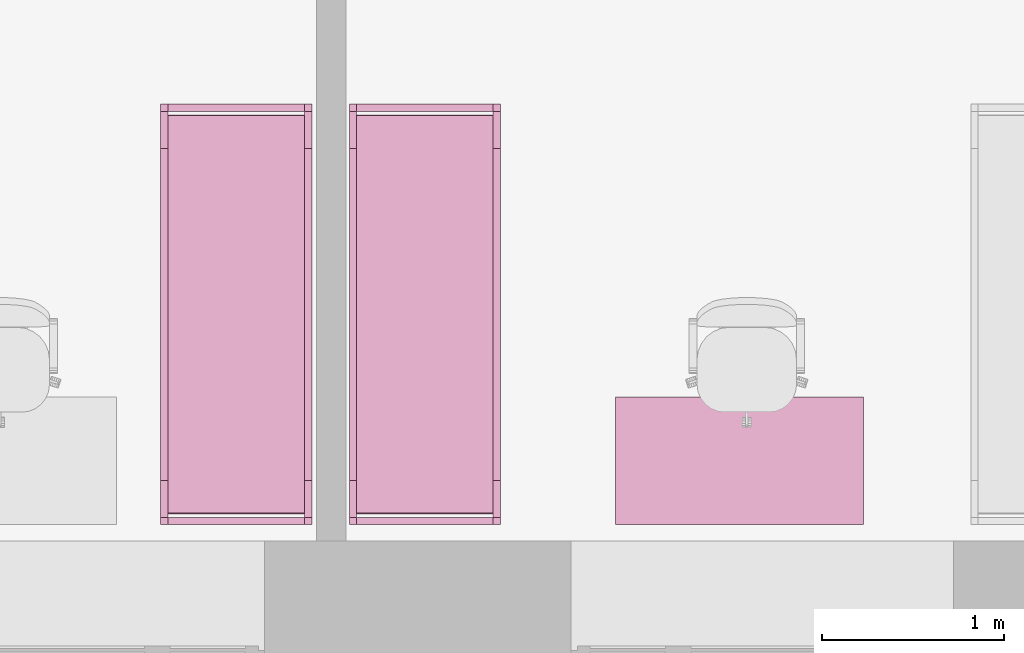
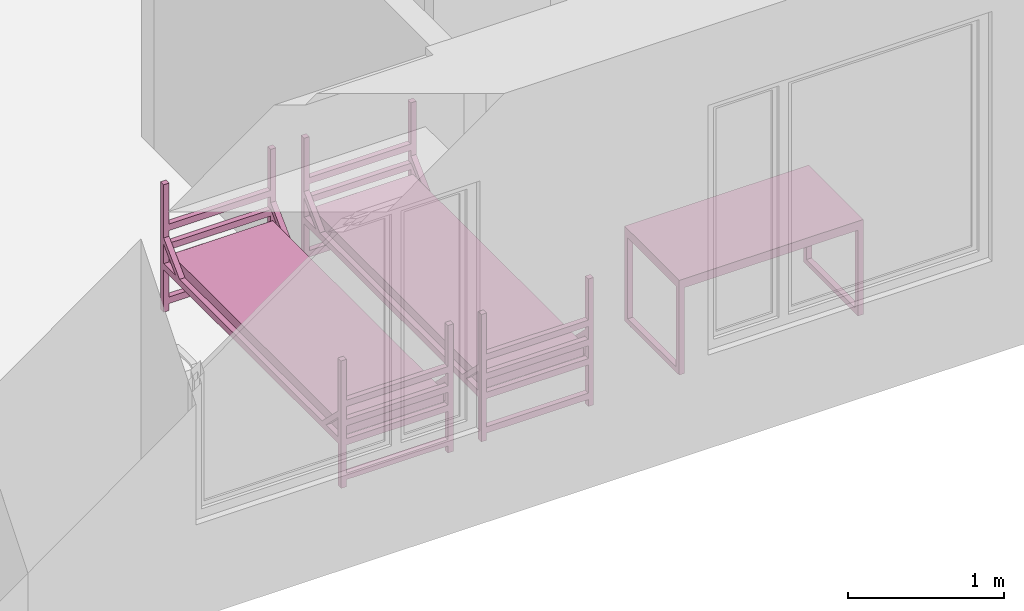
# One storey, part 23 of 48: 3 furnishings.
"""IFC2X3 building model written with IfcOpenShell, lengths in millimetres."""

from ifc_helpers import new_model, entity, si_unit, converted_unit, derived_unit, direction, frame, frame_2d, origin, origin_2d_with_axis, place, context, subcontext, project, spatial, polyline, circle_curve, parameter, trimmed, segment, composite_curve, rectangle, outline, extrude, faceted_brep, source, transform, mapped, material, material_list, type_object, type_shapes, element, save


model = new_model("IFC2X3")

# Units and contexts
model_context = context("Model", 3, precision=0.01, world=origin(), true_north=direction((6.12303176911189e-17, 1.0)))
body_context = subcontext(model_context, "Body", "Model", "MODEL_VIEW")
ifc_project = project(units=[si_unit("LENGTHUNIT", "METRE", prefix="MILLI"), si_unit("AREAUNIT", "SQUARE_METRE"), si_unit("VOLUMEUNIT", "CUBIC_METRE"), converted_unit("PLANEANGLEUNIT", "DEGREE", entity("IfcRatioMeasure", 0.0174532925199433), si_unit("PLANEANGLEUNIT", "RADIAN"), dimensions=[0, 0, 0, 0, 0, 0, 0]), si_unit("MASSUNIT", "GRAM", prefix="KILO"), derived_unit("MASSDENSITYUNIT", [(si_unit("MASSUNIT", "GRAM", prefix="KILO"), 1), (si_unit("LENGTHUNIT", "METRE"), -3)]), si_unit("TIMEUNIT", "SECOND"), si_unit("FREQUENCYUNIT", "HERTZ"), si_unit("THERMODYNAMICTEMPERATUREUNIT", "DEGREE_CELSIUS"), derived_unit("THERMALTRANSMITTANCEUNIT", [(si_unit("MASSUNIT", "GRAM", prefix="KILO"), 1), (si_unit("THERMODYNAMICTEMPERATUREUNIT", "KELVIN"), -1), (si_unit("TIMEUNIT", "SECOND"), -3)]), derived_unit("VOLUMETRICFLOWRATEUNIT", [(si_unit("LENGTHUNIT", "METRE"), 3), (si_unit("TIMEUNIT", "SECOND"), -1)]), si_unit("ELECTRICCURRENTUNIT", "AMPERE"), si_unit("ELECTRICVOLTAGEUNIT", "VOLT"), si_unit("POWERUNIT", "WATT"), si_unit("FORCEUNIT", "NEWTON", prefix="KILO"), si_unit("ILLUMINANCEUNIT", "LUX"), si_unit("LUMINOUSFLUXUNIT", "LUMEN"), si_unit("LUMINOUSINTENSITYUNIT", "CANDELA"), derived_unit("USERDEFINED", [(si_unit("MASSUNIT", "GRAM", prefix="KILO"), -1), (si_unit("LENGTHUNIT", "METRE"), -2), (si_unit("TIMEUNIT", "SECOND"), 3), (si_unit("LUMINOUSFLUXUNIT", "LUMEN"), 1)]), derived_unit("LINEARVELOCITYUNIT", [(si_unit("LENGTHUNIT", "METRE"), 1), (si_unit("TIMEUNIT", "SECOND"), -1)]), si_unit("PRESSUREUNIT", "PASCAL"), derived_unit("USERDEFINED", [(si_unit("LENGTHUNIT", "METRE"), -2), (si_unit("MASSUNIT", "GRAM", prefix="KILO"), 1), (si_unit("TIMEUNIT", "SECOND"), -2)]), derived_unit("LINEARFORCEUNIT", [(si_unit("MASSUNIT", "GRAM", prefix="KILO"), 1), (si_unit("LENGTHUNIT", "METRE"), 1), (si_unit("TIMEUNIT", "SECOND"), -2), (si_unit("LENGTHUNIT", "METRE"), -1)]), derived_unit("PLANARFORCEUNIT", [(si_unit("MASSUNIT", "GRAM", prefix="KILO"), 1), (si_unit("LENGTHUNIT", "METRE"), 1), (si_unit("TIMEUNIT", "SECOND"), -2), (si_unit("LENGTHUNIT", "METRE"), -2)])], contexts=[model_context])

# Site, building, storey, space
site_placement = place(None, origin())
site = spatial("IfcSite", under=ifc_project, at=site_placement, Name="Default", CompositionType="ELEMENT")
building_placement = place(site_placement, origin())
building = spatial("IfcBuilding", under=site, at=building_placement, Name="SMA ARH", CompositionType="ELEMENT")
storey_placement = place(building_placement, frame((0.0, 0.0, 3300.0)))
storey = spatial("IfcBuildingStorey", under=building, at=storey_placement, Name="2 Korrus", CompositionType="ELEMENT", Elevation=3299.99999999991)
space_1_placement = place(storey_placement, origin())
space_1 = spatial("IfcSpace", under=storey, at=space_1_placement, Name="2-15", CompositionType="ELEMENT", InteriorOrExteriorSpace="INTERNAL")

# Furnishing
ifc_material_1 = material(Name="Madrats")
furniture_type_1 = type_object("IfcFurnitureType", Name="Kasarmu voodi ühekordne 2308x830:Kasarmu voodi ühekordne 2308x830", material=ifc_material_1)
shared_shape_1 = source(origin(), body_context, "Body", "SweptSolid", [
    extrude(rectangle(XDim=39.9999999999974, YDim=750.000000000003, at=frame_2d((-1.35003119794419e-13, -2.8421709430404e-14), x_axis=(1.0, 0.0))), frame((1.68638457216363, -1226.7969571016, 55.0), z_axis=(0.0, 0.0, 1.0), x_axis=(0.0, -1.0, 0.0)), (0.0, 0.0, 1.0), 49.9999999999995),
    extrude(rectangle(XDim=39.9999999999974, YDim=750.000000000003, at=frame_2d((-1.35003119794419e-13, -2.8421709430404e-14), x_axis=(1.0, 0.0))), frame((1.68638457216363, -1226.7969571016, 325.0), z_axis=(0.0, 0.0, 1.0), x_axis=(0.0, -1.0, 0.0)), (0.0, 0.0, 1.0), 49.9999999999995),
    extrude(rectangle(XDim=39.9999999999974, YDim=750.000000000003, at=frame_2d((-1.35003119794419e-13, -2.8421709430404e-14), x_axis=(1.0, 0.0))), frame((1.68638457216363, -1226.7969571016, 475.0), z_axis=(0.0, 0.0, 1.0), x_axis=(0.0, -1.0, 0.0)), (0.0, 0.0, 1.0), 49.9999999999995),
    extrude(rectangle(XDim=39.9999999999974, YDim=750.000000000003, at=frame_2d((-1.35003119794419e-13, -2.8421709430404e-14), x_axis=(1.0, 0.0))), frame((1.68638457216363, -1226.7969571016, 625.0), z_axis=(0.0, 0.0, 1.0), x_axis=(0.0, -1.0, 0.0)), (0.0, 0.0, 1.0), 50.0000000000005),
    extrude(rectangle(XDim=39.9999999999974, YDim=750.000000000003, at=frame_2d((1.35003119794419e-13, -2.8421709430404e-14), x_axis=(1.0, 0.0))), frame((1.68638457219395, 1041.2030428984, 55.0), z_axis=(0.0, 0.0, 1.0), x_axis=(0.0, -1.0, 0.0)), (0.0, 0.0, 1.0), 50.0000000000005),
    extrude(rectangle(XDim=39.9999999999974, YDim=750.000000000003, at=frame_2d((1.35003119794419e-13, -2.8421709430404e-14), x_axis=(1.0, 0.0))), frame((1.68638457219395, 1041.2030428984, 325.0), z_axis=(0.0, 0.0, 1.0), x_axis=(0.0, -1.0, 0.0)), (0.0, 0.0, 1.0), 50.0000000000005),
    extrude(rectangle(XDim=39.9999999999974, YDim=750.000000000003, at=frame_2d((1.35003119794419e-13, -2.8421709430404e-14), x_axis=(1.0, 0.0))), frame((1.68638457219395, 1041.2030428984, 475.0), z_axis=(0.0, 0.0, 1.0), x_axis=(0.0, -1.0, 0.0)), (0.0, 0.0, 1.0), 50.0000000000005),
    extrude(rectangle(XDim=39.9999999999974, YDim=750.000000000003, at=frame_2d((1.35003119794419e-13, -2.8421709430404e-14), x_axis=(1.0, 0.0))), frame((1.68638457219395, 1041.2030428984, 625.0), z_axis=(0.0, 0.0, 1.0), x_axis=(0.0, -1.0, 0.0)), (0.0, 0.0, 1.0), 49.9999999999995),
    extrude(outline(composite_curve([segment(trimmed(circle_curve(frame_2d((1085.0, -40.0), x_axis=(1.0, 0.0)), 10.0), [parameter(270.0)], [parameter(0.0)], True, "PARAMETER"), True, "CONTINUOUS"), segment(polyline([(1095.0, -40.0), (1095.0, 40.0)]), True, "CONTINUOUS"), segment(trimmed(circle_curve(frame_2d((1085.0, 40.0), x_axis=(1.0, 0.0)), 10.0), [parameter(0.0)], [parameter(90.0000000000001)], True, "PARAMETER"), True, "CONTINUOUS"), segment(polyline([(1085.0, 50.0), (-1085.0, 50.0)]), True, "CONTINUOUS"), segment(trimmed(circle_curve(frame_2d((-1085.0, 40.0), x_axis=(1.0, 0.0)), 10.0), [parameter(90.0000000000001)], [parameter(180.0)], True, "PARAMETER"), True, "CONTINUOUS"), segment(polyline([(-1095.0, 40.0), (-1095.0, -40.0)]), True, "CONTINUOUS"), segment(trimmed(circle_curve(frame_2d((-1085.0, -40.0), x_axis=(1.0, 0.0)), 10.0), [parameter(180.0)], [parameter(270.0)], True, "PARAMETER"), True, "CONTINUOUS"), segment(polyline([(-1085.0, -50.0), (1085.0, -50.0)]), True, "CONTINUOUS")], self_intersect=False)), frame((-373.313615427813, -92.7969571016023, 405.0), z_axis=(1.0, 0.0, 0.0), x_axis=(0.0, -1.0, 0.0)), (0.0, 0.0, 1.0), 750.000000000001),
    extrude(outline(polyline([(-1114.0, -100.0), (1114.0, -100.0), (1114.0, -50.0), (961.59199141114, -50.0), (1114.0, 100.0), (1114.0, 150.0), (910.789321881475, -50.0), (-910.789321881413, -50.0), (-1114.0, 150.0), (-1114.0, 100.0), (-961.591991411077, -50.0), (-1114.0, -50.0), (-1114.0, -100.0)])), frame((-413.313615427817, -92.7969571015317, 430.0), z_axis=(1.0, 0.0, 0.0), x_axis=(0.0, 1.0, 0.0)), (0.0, 0.0, 1.0), 39.9999999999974),
    extrude(outline(polyline([(-1114.0, -100.0), (1114.0, -100.0), (1114.0, -50.0), (961.591991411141, -50.0), (1114.0, 100.0), (1114.0, 150.0), (910.789321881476, -50.0), (-910.789321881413, -50.0), (-1114.0, 150.0), (-1114.0, 100.0), (-961.591991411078, -50.0), (-1114.0, -50.0), (-1114.0, -100.0)])), frame((376.686384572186, -92.796957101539, 430.0), z_axis=(1.0, 0.0, 0.0), x_axis=(0.0, 1.0, 0.0)), (0.0, 0.0, 1.0), 39.9999999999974),
    extrude(rectangle(XDim=39.9999999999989, YDim=39.9999999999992, at=frame_2d((-6.75015598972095e-14, 0.0), x_axis=(1.0, 0.0))), frame((396.686384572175, -1226.79695710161, 0.0), z_axis=(0.0, 0.0, 1.0), x_axis=(0.0, 1.0, 0.0)), (0.0, 0.0, 1.0), 995.0),
    extrude(rectangle(XDim=39.9999999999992, YDim=39.9999999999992, at=frame_2d((-1.35003119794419e-13, 0.0), x_axis=(1.0, 0.0))), frame((396.686384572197, 1041.20304289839, 0.0), z_axis=(0.0, 0.0, 1.0), x_axis=(0.0, 1.0, 0.0)), (0.0, 0.0, 1.0), 995.0),
    extrude(rectangle(XDim=40.0000000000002, YDim=39.9999999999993, at=frame_2d((-1.35003119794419e-13, 0.0), x_axis=(1.0, 0.0))), frame((-393.313615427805, 1041.2030428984, 0.0), z_axis=(0.0, 0.0, 1.0), x_axis=(0.0, 1.0, 0.0)), (0.0, 0.0, 1.0), 995.0),
    extrude(rectangle(XDim=39.9999999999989, YDim=39.9999999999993, at=frame_2d((-6.75015598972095e-14, 0.0), x_axis=(1.0, 0.0))), frame((-393.313615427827, -1226.7969571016, 0.0), z_axis=(0.0, 0.0, 1.0), x_axis=(0.0, 1.0, 0.0)), (0.0, 0.0, 1.0), 995.0),
])
type_shapes(furniture_type_1, [shared_shape_1])
furnishing_1_placement = place(space_1_placement, frame((3185.0, 1151.20304289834, 0.0), z_axis=(0.0, 0.0, 1.0), x_axis=(-1.0, 0.0, 0.0)))
element("IfcFurnishingElement", 1, at=furnishing_1_placement, inside=space_1, type_object=furniture_type_1, material=ifc_material_1, Name="Kasarmu voodi ühekordne 2308x830:Kasarmu voodi ühekordne 2308x830", ObjectType="Kasarmu voodi ühekordne 2308x830:Kasarmu voodi ühekordne 2308x830", context=body_context, shape_type="MappedRepresentation", body=[
    mapped(shared_shape_1, transform((0.0, 0.0, 0.0), scale=1.0)),
])

# Space
space_2_placement = place(storey_placement, origin())
space_2 = spatial("IfcSpace", under=storey, at=space_2_placement, Name="2-14", CompositionType="ELEMENT", InteriorOrExteriorSpace="INTERNAL")

# Furnishings
ifc_material_2 = material(Name="<Unnamed>")
ifc_material_list = material_list([ifc_material_2, ifc_material_2])
furniture_type_2 = type_object("IfcFurnitureType", Name="kirjutuslaud 1360x700mm:kirjutuslaud 1360x700mm", material=ifc_material_list)
shared_shape_2 = source(origin(), body_context, "Body", "Brep", [
    faceted_brep([(680.0, -350.0, 720.0), (680.0, 350.0, 720.0), (680.0, 350.0, 750.0), (680.0, -350.0, 750.0), (-680.0, -350.0, 720.0), (-680.0, -350.0, 750.0), (-680.0, 350.0, 750.0), (-680.0, 350.0, 720.0)], [[[0, 1, 2, 3]], [[4, 5, 6, 7]], [[1, 0, 4, 7]], [[2, 1, 7, 6]], [[3, 2, 6, 5]], [[0, 3, 5, 4]]]),
    faceted_brep([(-640.0, -310.0, 680.0), (-640.0, 310.0, 680.0), (-640.0, 310.0, 720.0), (-640.0, -310.0, 720.0), (-680.0, -350.0, 720.0), (-680.0, 350.0, 720.0), (-680.0, 350.0, 10.0), (-680.0, -350.0, 10.0), (-680.0, 310.0, 680.0), (-680.0, -310.0, 680.0), (-680.0, -310.0, 50.0), (-680.0, 310.0, 50.0), (-640.0, -350.0, 10.0), (-640.0, -350.0, 680.0), (640.0, -350.0, 680.0), (640.0, -350.0, 10.0), (680.0, -350.0, 10.0), (680.0, -350.0, 720.0), (-640.0, 350.0, 10.0), (680.0, 350.0, 720.0), (680.0, 350.0, 10.0), (640.0, 350.0, 10.0), (640.0, 350.0, 680.0), (-640.0, 350.0, 680.0), (640.0, 310.0, 720.0), (640.0, -310.0, 720.0), (-640.0, 310.0, 50.0), (-640.0, -310.0, 50.0), (640.0, -310.0, 680.0), (640.0, 310.0, 680.0), (680.0, 310.0, 680.0), (680.0, 310.0, 50.0), (680.0, -310.0, 50.0), (680.0, -310.0, 680.0), (640.0, -310.0, 50.0), (640.0, 310.0, 50.0)], [[[0, 1, 2, 3]], [[4, 5, 6, 7], [8, 9, 10, 11]], [[4, 7, 12, 13, 14, 15, 16, 17]], [[18, 12, 7, 6]], [[6, 5, 19, 20, 21, 22, 23, 18]], [[19, 5, 4, 17], [2, 24, 25, 3]], [[26, 1, 8, 11]], [[27, 26, 11, 10]], [[0, 27, 10, 9]], [[1, 0, 9, 8]], [[14, 13, 0, 28]], [[24, 2, 1, 29]], [[3, 25, 28, 0]], [[17, 16, 20, 19], [30, 31, 32, 33]], [[21, 15, 14, 28, 34, 35, 29, 22]], [[20, 16, 15, 21]], [[31, 30, 29, 35]], [[32, 31, 35, 34]], [[33, 32, 34, 28]], [[30, 33, 28, 29]], [[29, 28, 25, 24]], [[29, 1, 23, 22]], [[12, 18, 23, 1, 26, 27, 0, 13]]]),
    faceted_brep([(-663.729456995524, -270.466136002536, 0.0), (-659.847171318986, -269.955023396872, 0.0), (-655.964885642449, -270.466136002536, 0.0), (-652.347171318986, -271.964642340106, 0.0), (-649.240569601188, -274.348421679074, 0.0), (-646.85679026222, -277.455023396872, 0.0), (-645.35828392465, -281.072737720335, 0.0), (-644.847171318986, -284.955023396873, 0.0), (-645.35828392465, -288.83730907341, 0.0), (-646.85679026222, -292.455023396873, 0.0), (-649.240569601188, -295.561625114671, 0.0), (-652.347171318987, -297.945404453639, 0.0), (-655.964885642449, -299.443910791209, 0.0), (-659.847171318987, -299.955023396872, 0.0), (-663.729456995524, -299.443910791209, 0.0), (-667.347171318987, -297.945404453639, 0.0), (-670.453773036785, -295.561625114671, 0.0), (-672.837552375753, -292.455023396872, 0.0), (-674.336058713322, -288.83730907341, 0.0), (-674.847171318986, -284.955023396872, 0.0), (-674.336058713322, -281.072737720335, 0.0), (-672.837552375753, -277.455023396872, 0.0), (-670.453773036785, -274.348421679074, 0.0), (-667.347171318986, -271.964642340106, 0.0), (-655.964885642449, -299.443910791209, 10.0), (-652.347171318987, -297.945404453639, 10.0), (-649.240569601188, -295.561625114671, 10.0), (-646.85679026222, -292.455023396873, 10.0), (-645.35828392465, -288.83730907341, 10.0), (-644.847171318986, -284.955023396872, 10.0), (-645.35828392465, -281.072737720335, 10.0), (-646.85679026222, -277.455023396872, 10.0), (-649.240569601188, -274.348421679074, 10.0), (-652.347171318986, -271.964642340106, 10.0), (-655.964885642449, -270.466136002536, 10.0), (-659.847171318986, -269.955023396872, 10.0), (-663.729456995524, -270.466136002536, 10.0), (-667.347171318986, -271.964642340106, 10.0), (-670.453773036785, -274.348421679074, 10.0), (-672.837552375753, -277.455023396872, 10.0), (-674.336058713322, -281.072737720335, 10.0), (-674.847171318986, -284.955023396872, 10.0), (-674.336058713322, -288.83730907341, 10.0), (-672.837552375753, -292.455023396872, 10.0), (-670.453773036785, -295.561625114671, 10.0), (-667.347171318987, -297.945404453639, 10.0), (-663.729456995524, -299.443910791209, 10.0), (-659.847171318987, -299.955023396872, 10.0)], [[[0, 1, 2, 3, 4, 5, 6, 7, 8, 9, 10, 11, 12, 13, 14, 15, 16, 17, 18, 19, 20, 21, 22, 23]], [[24, 25, 26, 27, 28, 29, 30, 31, 32, 33, 34, 35, 36, 37, 38, 39, 40, 41, 42, 43, 44, 45, 46, 47]], [[18, 42, 41, 19]], [[17, 43, 42, 18]], [[45, 44, 16, 15]], [[17, 16, 44, 43]], [[46, 45, 15, 14]], [[47, 46, 14, 13]], [[12, 24, 47, 13]], [[11, 25, 24, 12]], [[27, 26, 10, 9]], [[11, 10, 26, 25]], [[28, 27, 9, 8]], [[29, 28, 8, 7]], [[6, 30, 29, 7]], [[5, 31, 30, 6]], [[33, 32, 4, 3]], [[5, 4, 32, 31]], [[34, 33, 3, 2]], [[35, 34, 2, 1]], [[0, 36, 35, 1]], [[23, 37, 36, 0]], [[39, 38, 22, 21]], [[23, 22, 38, 37]], [[40, 39, 21, 20]], [[41, 40, 20, 19]]]),
    faceted_brep([(-655.964885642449, 270.466136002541, 10.0), (-652.347171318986, 271.964642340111, 10.0), (-649.240569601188, 274.348421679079, 10.0), (-646.85679026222, 277.455023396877, 10.0), (-645.35828392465, 281.07273772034, 10.0), (-644.847171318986, 284.955023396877, 10.0), (-645.35828392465, 288.837309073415, 10.0), (-646.85679026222, 292.455023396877, 10.0), (-649.240569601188, 295.561625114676, 10.0), (-652.347171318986, 297.945404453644, 10.0), (-655.964885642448, 299.443910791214, 10.0), (-659.847171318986, 299.955023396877, 10.0), (-663.729456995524, 299.443910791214, 10.0), (-667.347171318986, 297.945404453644, 10.0), (-670.453773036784, 295.561625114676, 10.0), (-672.837552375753, 292.455023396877, 10.0), (-674.336058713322, 288.837309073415, 10.0), (-674.847171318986, 284.955023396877, 10.0), (-674.336058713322, 281.07273772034, 10.0), (-672.837552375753, 277.455023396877, 10.0), (-670.453773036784, 274.348421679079, 10.0), (-667.347171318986, 271.964642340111, 10.0), (-663.729456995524, 270.466136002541, 10.0), (-659.847171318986, 269.955023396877, 10.0), (-655.964885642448, 299.443910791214, 0.0), (-652.347171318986, 297.945404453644, 0.0), (-649.240569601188, 295.561625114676, 0.0), (-646.85679026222, 292.455023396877, 0.0), (-645.35828392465, 288.837309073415, 0.0), (-644.847171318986, 284.955023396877, 0.0), (-645.35828392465, 281.07273772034, 0.0), (-646.85679026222, 277.455023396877, 0.0), (-649.240569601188, 274.348421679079, 0.0), (-652.347171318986, 271.964642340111, 0.0), (-655.964885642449, 270.466136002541, 0.0), (-659.847171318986, 269.955023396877, 0.0), (-663.729456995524, 270.466136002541, 0.0), (-667.347171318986, 271.964642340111, 0.0), (-670.453773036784, 274.348421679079, 0.0), (-672.837552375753, 277.455023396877, 0.0), (-674.336058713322, 281.07273772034, 0.0), (-674.847171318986, 284.955023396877, 0.0), (-674.336058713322, 288.837309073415, 0.0), (-672.837552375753, 292.455023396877, 0.0), (-670.453773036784, 295.561625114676, 0.0), (-667.347171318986, 297.945404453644, 0.0), (-663.729456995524, 299.443910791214, 0.0), (-659.847171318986, 299.955023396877, 0.0)], [[[0, 1, 2, 3, 4, 5, 6, 7, 8, 9, 10, 11, 12, 13, 14, 15, 16, 17, 18, 19, 20, 21, 22, 23]], [[24, 25, 26, 27, 28, 29, 30, 31, 32, 33, 34, 35, 36, 37, 38, 39, 40, 41, 42, 43, 44, 45, 46, 47]], [[40, 18, 17, 41]], [[39, 19, 18, 40]], [[21, 20, 38, 37]], [[39, 38, 20, 19]], [[22, 21, 37, 36]], [[23, 22, 36, 35]], [[34, 0, 23, 35]], [[33, 1, 0, 34]], [[3, 2, 32, 31]], [[33, 32, 2, 1]], [[4, 3, 31, 30]], [[5, 4, 30, 29]], [[28, 6, 5, 29]], [[27, 7, 6, 28]], [[9, 8, 26, 25]], [[27, 26, 8, 7]], [[10, 9, 25, 24]], [[11, 10, 24, 47]], [[46, 12, 11, 47]], [[45, 13, 12, 46]], [[15, 14, 44, 43]], [[45, 44, 14, 13]], [[16, 15, 43, 42]], [[17, 16, 42, 41]]]),
    faceted_brep([(656.270543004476, -270.466136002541, 0.0), (660.152828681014, -269.955023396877, 0.0), (664.035114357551, -270.466136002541, 0.0), (667.652828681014, -271.96464234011, 0.0), (670.759430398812, -274.348421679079, 0.0), (673.14320973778, -277.455023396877, 0.0), (674.64171607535, -281.072737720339, 0.0), (675.152828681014, -284.955023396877, 0.0), (674.64171607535, -288.837309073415, 0.0), (673.14320973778, -292.455023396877, 0.0), (670.759430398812, -295.561625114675, 0.0), (667.652828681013, -297.945404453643, 0.0), (664.035114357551, -299.443910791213, 0.0), (660.152828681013, -299.955023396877, 0.0), (656.270543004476, -299.443910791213, 0.0), (652.652828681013, -297.945404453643, 0.0), (649.546226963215, -295.561625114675, 0.0), (647.162447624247, -292.455023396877, 0.0), (645.663941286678, -288.837309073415, 0.0), (645.152828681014, -284.955023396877, 0.0), (645.663941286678, -281.072737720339, 0.0), (647.162447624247, -277.455023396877, 0.0), (649.546226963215, -274.348421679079, 0.0), (652.652828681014, -271.96464234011, 0.0), (664.035114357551, -299.443910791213, 10.0), (667.652828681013, -297.945404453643, 10.0), (670.759430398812, -295.561625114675, 10.0), (673.14320973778, -292.455023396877, 10.0), (674.64171607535, -288.837309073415, 10.0), (675.152828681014, -284.955023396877, 10.0), (674.64171607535, -281.072737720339, 10.0), (673.14320973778, -277.455023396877, 10.0), (670.759430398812, -274.348421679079, 10.0), (667.652828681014, -271.96464234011, 10.0), (664.035114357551, -270.466136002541, 10.0), (660.152828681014, -269.955023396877, 10.0), (656.270543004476, -270.466136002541, 10.0), (652.652828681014, -271.96464234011, 10.0), (649.546226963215, -274.348421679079, 10.0), (647.162447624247, -277.455023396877, 10.0), (645.663941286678, -281.072737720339, 10.0), (645.152828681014, -284.955023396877, 10.0), (645.663941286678, -288.837309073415, 10.0), (647.162447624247, -292.455023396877, 10.0), (649.546226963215, -295.561625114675, 10.0), (652.652828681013, -297.945404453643, 10.0), (656.270543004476, -299.443910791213, 10.0), (660.152828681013, -299.955023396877, 10.0)], [[[0, 1, 2, 3, 4, 5, 6, 7, 8, 9, 10, 11, 12, 13, 14, 15, 16, 17, 18, 19, 20, 21, 22, 23]], [[24, 25, 26, 27, 28, 29, 30, 31, 32, 33, 34, 35, 36, 37, 38, 39, 40, 41, 42, 43, 44, 45, 46, 47]], [[18, 42, 41, 19]], [[17, 43, 42, 18]], [[45, 44, 16, 15]], [[17, 16, 44, 43]], [[46, 45, 15, 14]], [[47, 46, 14, 13]], [[12, 24, 47, 13]], [[11, 25, 24, 12]], [[27, 26, 10, 9]], [[11, 10, 26, 25]], [[28, 27, 9, 8]], [[29, 28, 8, 7]], [[6, 30, 29, 7]], [[5, 31, 30, 6]], [[33, 32, 4, 3]], [[5, 4, 32, 31]], [[34, 33, 3, 2]], [[35, 34, 2, 1]], [[0, 36, 35, 1]], [[23, 37, 36, 0]], [[39, 38, 22, 21]], [[23, 22, 38, 37]], [[40, 39, 21, 20]], [[41, 40, 20, 19]]]),
    faceted_brep([(664.035114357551, 270.466136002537, 10.0), (667.652828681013, 271.964642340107, 10.0), (670.759430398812, 274.348421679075, 10.0), (673.14320973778, 277.455023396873, 10.0), (674.64171607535, 281.072737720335, 10.0), (675.152828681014, 284.955023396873, 10.0), (674.64171607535, 288.837309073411, 10.0), (673.14320973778, 292.455023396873, 10.0), (670.759430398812, 295.561625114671, 10.0), (667.652828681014, 297.94540445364, 10.0), (664.035114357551, 299.443910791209, 10.0), (660.152828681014, 299.955023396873, 10.0), (656.270543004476, 299.443910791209, 10.0), (652.652828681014, 297.94540445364, 10.0), (649.546226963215, 295.561625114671, 10.0), (647.162447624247, 292.455023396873, 10.0), (645.663941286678, 288.837309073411, 10.0), (645.152828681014, 284.955023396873, 10.0), (645.663941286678, 281.072737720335, 10.0), (647.162447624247, 277.455023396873, 10.0), (649.546226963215, 274.348421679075, 10.0), (652.652828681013, 271.964642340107, 10.0), (656.270543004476, 270.466136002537, 10.0), (660.152828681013, 269.955023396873, 10.0), (664.035114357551, 299.443910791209, 0.0), (667.652828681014, 297.94540445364, 0.0), (670.759430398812, 295.561625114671, 0.0), (673.14320973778, 292.455023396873, 0.0), (674.64171607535, 288.837309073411, 0.0), (675.152828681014, 284.955023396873, 0.0), (674.64171607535, 281.072737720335, 0.0), (673.14320973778, 277.455023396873, 0.0), (670.759430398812, 274.348421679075, 0.0), (667.652828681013, 271.964642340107, 0.0), (664.035114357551, 270.466136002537, 0.0), (660.152828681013, 269.955023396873, 0.0), (656.270543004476, 270.466136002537, 0.0), (652.652828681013, 271.964642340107, 0.0), (649.546226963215, 274.348421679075, 0.0), (647.162447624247, 277.455023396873, 0.0), (645.663941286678, 281.072737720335, 0.0), (645.152828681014, 284.955023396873, 0.0), (645.663941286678, 288.837309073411, 0.0), (647.162447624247, 292.455023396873, 0.0), (649.546226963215, 295.561625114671, 0.0), (652.652828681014, 297.94540445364, 0.0), (656.270543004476, 299.443910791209, 0.0), (660.152828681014, 299.955023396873, 0.0)], [[[0, 1, 2, 3, 4, 5, 6, 7, 8, 9, 10, 11, 12, 13, 14, 15, 16, 17, 18, 19, 20, 21, 22, 23]], [[24, 25, 26, 27, 28, 29, 30, 31, 32, 33, 34, 35, 36, 37, 38, 39, 40, 41, 42, 43, 44, 45, 46, 47]], [[40, 18, 17, 41]], [[39, 19, 18, 40]], [[21, 20, 38, 37]], [[39, 38, 20, 19]], [[22, 21, 37, 36]], [[23, 22, 36, 35]], [[34, 0, 23, 35]], [[33, 1, 0, 34]], [[3, 2, 32, 31]], [[33, 32, 2, 1]], [[4, 3, 31, 30]], [[5, 4, 30, 29]], [[28, 6, 5, 29]], [[27, 7, 6, 28]], [[9, 8, 26, 25]], [[27, 26, 8, 7]], [[10, 9, 25, 24]], [[11, 10, 24, 47]], [[46, 12, 11, 47]], [[45, 13, 12, 46]], [[15, 14, 44, 43]], [[45, 44, 14, 13]], [[16, 15, 43, 42]], [[17, 16, 42, 41]]]),
])
type_shapes(furniture_type_2, [shared_shape_2])
furnishing_2_placement = place(space_2_placement, frame((5945.50000000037, 440.0, 0.0)))
element("IfcFurnishingElement", 2, at=furnishing_2_placement, inside=space_2, type_object=furniture_type_2, Name="kirjutuslaud 1360x700mm:kirjutuslaud 1360x700mm", ObjectType="kirjutuslaud 1360x700mm:kirjutuslaud 1360x700mm", context=body_context, shape_type="MappedRepresentation", body=[
    mapped(shared_shape_2, transform((0.0, 0.0, 0.0), scale=1.0)),
])
furniture_type_3 = type_object("IfcFurnitureType", Name="Kasarmu voodi ühekordne 2308x830:Kasarmu voodi ühekordne 2308x830", material=ifc_material_1)
shared_shape_3 = source(origin(), body_context, "Body", "SweptSolid", [
    extrude(rectangle(XDim=750.000000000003, YDim=39.9999999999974, at=frame_2d((0.0, 1.35003119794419e-13), x_axis=(1.0, 0.0))), frame((1.68638457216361, 1226.7969571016, 55.0)), (0.0, 0.0, 1.0), 49.9999999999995),
    extrude(rectangle(XDim=750.000000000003, YDim=39.9999999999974, at=frame_2d((0.0, 1.35003119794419e-13), x_axis=(1.0, 0.0))), frame((1.68638457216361, 1226.7969571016, 325.0)), (0.0, 0.0, 1.0), 49.9999999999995),
    extrude(rectangle(XDim=750.000000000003, YDim=39.9999999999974, at=frame_2d((0.0, 1.35003119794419e-13), x_axis=(1.0, 0.0))), frame((1.68638457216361, 1226.7969571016, 475.0)), (0.0, 0.0, 1.0), 49.9999999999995),
    extrude(rectangle(XDim=750.000000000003, YDim=39.9999999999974, at=frame_2d((0.0, 1.35003119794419e-13), x_axis=(1.0, 0.0))), frame((1.68638457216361, 1226.7969571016, 625.0)), (0.0, 0.0, 1.0), 50.0000000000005),
    extrude(rectangle(XDim=750.000000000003, YDim=39.9999999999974, at=origin_2d_with_axis()), frame((1.68638457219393, -1041.2030428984, 55.0)), (0.0, 0.0, 1.0), 50.0000000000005),
    extrude(rectangle(XDim=750.000000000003, YDim=39.9999999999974, at=origin_2d_with_axis()), frame((1.68638457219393, -1041.2030428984, 325.0)), (0.0, 0.0, 1.0), 50.0000000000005),
    extrude(rectangle(XDim=750.000000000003, YDim=39.9999999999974, at=origin_2d_with_axis()), frame((1.68638457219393, -1041.2030428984, 475.0)), (0.0, 0.0, 1.0), 50.0000000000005),
    extrude(rectangle(XDim=750.000000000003, YDim=39.9999999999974, at=origin_2d_with_axis()), frame((1.68638457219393, -1041.2030428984, 625.0)), (0.0, 0.0, 1.0), 49.9999999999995),
    extrude(outline(composite_curve([segment(polyline([(-1085.0, -50.0), (1085.0, -50.0)]), True, "CONTINUOUS"), segment(trimmed(circle_curve(frame_2d((1085.0, -40.0), x_axis=(-1.0, 0.0)), 10.0), [parameter(90.0000000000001)], [parameter(180.0)], True, "PARAMETER"), True, "CONTINUOUS"), segment(polyline([(1095.0, -40.0), (1095.0, 40.0)]), True, "CONTINUOUS"), segment(trimmed(circle_curve(frame_2d((1085.0, 40.0), x_axis=(-1.0, 0.0)), 10.0), [parameter(180.0)], [parameter(270.0)], True, "PARAMETER"), True, "CONTINUOUS"), segment(polyline([(1085.0, 50.0), (-1085.0, 50.0)]), True, "CONTINUOUS"), segment(trimmed(circle_curve(frame_2d((-1085.0, 40.0), x_axis=(-1.0, 0.0)), 10.0), [parameter(270.0)], [parameter(0.0)], True, "PARAMETER"), True, "CONTINUOUS"), segment(polyline([(-1095.0, 40.0), (-1095.0, -40.0)]), True, "CONTINUOUS"), segment(trimmed(circle_curve(frame_2d((-1085.0, -40.0), x_axis=(-1.0, 0.0)), 10.0), [parameter(0.0)], [parameter(90.0000000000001)], True, "PARAMETER"), True, "CONTINUOUS")], self_intersect=False)), frame((-373.313615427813, 92.7969571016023, 405.0), z_axis=(1.0, 0.0, 0.0), x_axis=(0.0, -1.0, 0.0)), (0.0, 0.0, 1.0), 750.000000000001),
    extrude(outline(polyline([(-100.0, -1114.0), (-50.0, -1114.0), (-50.0, -961.591991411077), (100.0, -1114.0), (150.0, -1114.0), (-50.0, -910.789321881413), (-50.0, 910.789321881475), (150.0, 1114.0), (100.0, 1114.0), (-50.0, 961.591991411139), (-50.0, 1114.0), (-100.0, 1114.0), (-100.0, -1114.0)])), frame((-413.313615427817, 92.7969571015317, 430.0), z_axis=(1.0, 0.0, 0.0), x_axis=(0.0, 0.0, 1.0)), (0.0, 0.0, 1.0), 39.9999999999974),
    extrude(outline(polyline([(-100.0, -1114.0), (-50.0, -1114.0), (-50.0, -961.591991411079), (100.0, -1114.0), (150.0, -1114.0), (-50.0, -910.789321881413), (-50.0, 910.789321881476), (150.0, 1114.0), (100.0, 1114.0), (-50.0, 961.591991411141), (-50.0, 1114.0), (-100.0, 1114.0), (-100.0, -1114.0)])), frame((376.686384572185, 92.796957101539, 430.0), z_axis=(1.0, 0.0, 0.0), x_axis=(0.0, 0.0, 1.0)), (0.0, 0.0, 1.0), 39.9999999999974),
    extrude(rectangle(XDim=39.9999999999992, YDim=39.9999999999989, at=frame_2d((0.0, -6.75015598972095e-14), x_axis=(1.0, 0.0))), frame((396.686384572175, 1226.79695710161, 0.0), z_axis=(0.0, 0.0, 1.0), x_axis=(-1.0, 0.0, 0.0)), (0.0, 0.0, 1.0), 995.0),
    extrude(rectangle(XDim=39.9999999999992, YDim=39.9999999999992, at=origin_2d_with_axis()), frame((396.686384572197, -1041.20304289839, 0.0), z_axis=(0.0, 0.0, 1.0), x_axis=(-1.0, 0.0, 0.0)), (0.0, 0.0, 1.0), 995.0),
    extrude(rectangle(XDim=39.9999999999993, YDim=40.0000000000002, at=origin_2d_with_axis()), frame((-393.313615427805, -1041.2030428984, 0.0), z_axis=(0.0, 0.0, 1.0), x_axis=(-1.0, 0.0, 0.0)), (0.0, 0.0, 1.0), 995.0),
    extrude(rectangle(XDim=39.9999999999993, YDim=39.9999999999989, at=frame_2d((0.0, -6.75015598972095e-14), x_axis=(1.0, 0.0))), frame((-393.313615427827, 1226.7969571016, 0.0), z_axis=(0.0, 0.0, 1.0), x_axis=(-1.0, 0.0, 0.0)), (0.0, 0.0, 1.0), 995.0),
])
type_shapes(furniture_type_3, [shared_shape_3])
furnishing_3_placement = place(space_2_placement, frame((4220.68638457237, 1336.79695710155, 0.0), z_axis=(0.0, 0.0, 1.0), x_axis=(-1.0, 0.0, 0.0)))
element("IfcFurnishingElement", 3, at=furnishing_3_placement, inside=space_2, type_object=furniture_type_3, material=ifc_material_1, Name="Kasarmu voodi ühekordne 2308x830:Kasarmu voodi ühekordne 2308x830", ObjectType="Kasarmu voodi ühekordne 2308x830:Kasarmu voodi ühekordne 2308x830", context=body_context, shape_type="MappedRepresentation", body=[
    mapped(shared_shape_3, transform((0.0, 0.0, 0.0), scale=1.0)),
])

save(model, "model.ifc")
